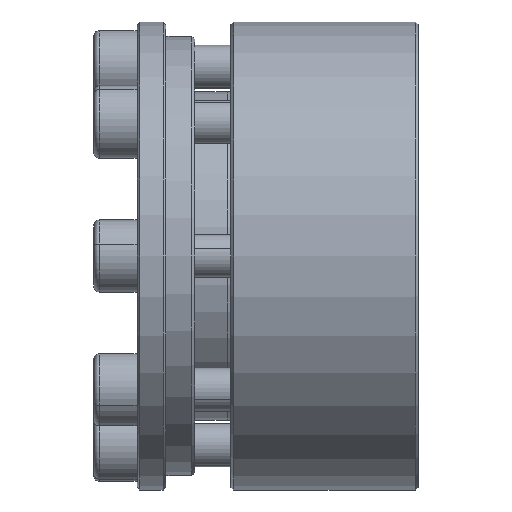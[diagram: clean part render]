
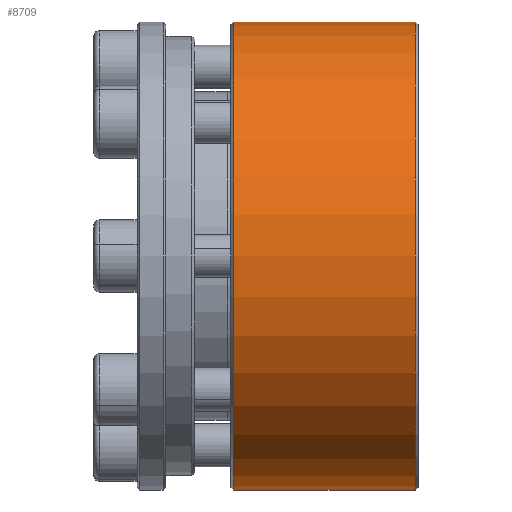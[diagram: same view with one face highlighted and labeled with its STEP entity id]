
A CAD part, front view. The second image highlights one B-rep face of the part: STEP entity #8709.
In plain terms, the highlighted cylindrical face has radius 32.46 mm (diameter 64.92 mm), a partial arc.
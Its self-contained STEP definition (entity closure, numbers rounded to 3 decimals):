
#451 = AXIS2_PLACEMENT_3D ( 'NONE', #7024, #1667, #8545 ) ;
#981 = EDGE_CURVE ( 'NONE', #8267, #6957, #3701, .T. ) ;
#1014 = CARTESIAN_POINT ( 'NONE',  ( -92.766, 26.04, -32.46 ) ) ;
#1072 = DIRECTION ( 'NONE',  ( -1., 0., 0. ) ) ;
#1241 = VECTOR ( 'NONE', #2304, 1000. ) ;
#1334 = EDGE_CURVE ( 'NONE', #5670, #6079, #7816, .T. ) ;
#1336 = DIRECTION ( 'NONE',  ( -1., 0., 0. ) ) ;
#1385 = ORIENTED_EDGE ( 'NONE', *, *, #981, .T. ) ;
#1510 = VECTOR ( 'NONE', #1072, 1000. ) ;
#1573 = CIRCLE ( 'NONE', #6558, 32.46 ) ;
#1667 = DIRECTION ( 'NONE',  ( 1., 0., 0. ) ) ;
#1777 = CARTESIAN_POINT ( 'NONE',  ( -67.166, 26.04, 32.46 ) ) ;
#1818 = DIRECTION ( 'NONE',  ( 0., 0., 1. ) ) ;
#2304 = DIRECTION ( 'NONE',  ( -1., 0., 0. ) ) ;
#2474 = FACE_OUTER_BOUND ( 'NONE', #2825, .T. ) ;
#2497 = CARTESIAN_POINT ( 'NONE',  ( -92.366, 26.04, -32.46 ) ) ;
#2825 = EDGE_LOOP ( 'NONE', ( #4925, #8218, #1385, #6335 ) ) ;
#3202 = DIRECTION ( 'NONE',  ( -1., 0., 0. ) ) ;
#3265 = CARTESIAN_POINT ( 'NONE',  ( -67.166, 26.04, 0. ) ) ;
#3488 = AXIS2_PLACEMENT_3D ( 'NONE', #6576, #3202, #5913 ) ;
#3701 = LINE ( 'NONE', #5746, #1510 ) ;
#3731 = CIRCLE ( 'NONE', #451, 32.46 ) ;
#4234 = CARTESIAN_POINT ( 'NONE',  ( -92.366, 26.04, 32.46 ) ) ;
#4389 = CARTESIAN_POINT ( 'NONE',  ( -67.166, 26.04, -32.46 ) ) ;
#4925 = ORIENTED_EDGE ( 'NONE', *, *, #1334, .F. ) ;
#4929 = EDGE_CURVE ( 'NONE', #5670, #8267, #1573, .T. ) ;
#5202 = CYLINDRICAL_SURFACE ( 'NONE', #3488, 32.46 ) ;
#5528 = EDGE_CURVE ( 'NONE', #6957, #6079, #3731, .T. ) ;
#5670 = VERTEX_POINT ( 'NONE', #4389 ) ;
#5746 = CARTESIAN_POINT ( 'NONE',  ( -92.766, 26.04, 32.46 ) ) ;
#5913 = DIRECTION ( 'NONE',  ( 0., 0., 1. ) ) ;
#6079 = VERTEX_POINT ( 'NONE', #2497 ) ;
#6335 = ORIENTED_EDGE ( 'NONE', *, *, #5528, .T. ) ;
#6558 = AXIS2_PLACEMENT_3D ( 'NONE', #3265, #1336, #1818 ) ;
#6576 = CARTESIAN_POINT ( 'NONE',  ( -92.766, 26.04, 0. ) ) ;
#6957 = VERTEX_POINT ( 'NONE', #4234 ) ;
#7024 = CARTESIAN_POINT ( 'NONE',  ( -92.366, 26.04, 0. ) ) ;
#7816 = LINE ( 'NONE', #1014, #1241 ) ;
#8218 = ORIENTED_EDGE ( 'NONE', *, *, #4929, .T. ) ;
#8267 = VERTEX_POINT ( 'NONE', #1777 ) ;
#8545 = DIRECTION ( 'NONE',  ( 0., 0., -1. ) ) ;
#8709 = ADVANCED_FACE ( 'NONE', ( #2474 ), #5202, .T. ) ;
